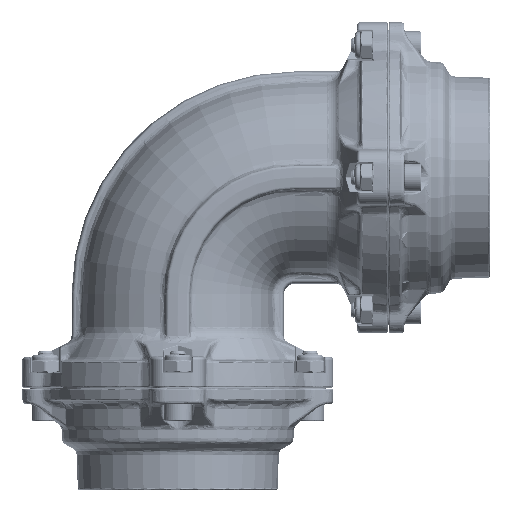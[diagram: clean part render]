
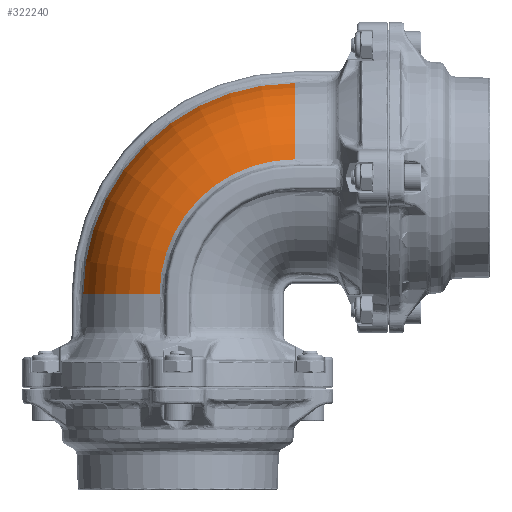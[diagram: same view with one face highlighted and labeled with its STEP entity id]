
A CAD part, top view. The second image highlights one B-rep face of the part: STEP entity #322240.
In plain terms, the highlighted toroidal (fillet/blend) face has major radius 54.545 mm and minor radius 44.9 mm.
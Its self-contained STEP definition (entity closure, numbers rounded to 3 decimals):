
#1003 = VERTEX_POINT ( 'NONE', #332062 ) ;
#6749 = CIRCLE ( 'NONE', #281190, 98.644 ) ;
#6837 = CARTESIAN_POINT ( 'NONE',  ( -106.99, -54.545, 44.099 ) ) ;
#28927 = DIRECTION ( 'NONE',  ( -1., 0., 0. ) ) ;
#34932 = CARTESIAN_POINT ( 'NONE',  ( -44., -54.545, 44.099 ) ) ;
#44444 = AXIS2_PLACEMENT_3D ( 'NONE', #87728, #270351, #114007 ) ;
#47704 = ORIENTED_EDGE ( 'NONE', *, *, #87240, .T. ) ;
#49599 = VERTEX_POINT ( 'NONE', #6837 ) ;
#49905 = VERTEX_POINT ( 'NONE', #235135 ) ;
#51947 = AXIS2_PLACEMENT_3D ( 'NONE', #102919, #285304, #129162 ) ;
#59497 = ORIENTED_EDGE ( 'NONE', *, *, #90155, .T. ) ;
#61276 = DIRECTION ( 'NONE',  ( 0., 1., 0. ) ) ;
#70699 = EDGE_LOOP ( 'NONE', ( #47704, #153709, #312432, #249921, #96205, #59497 ) ) ;
#73053 = CIRCLE ( 'NONE', #275081, 62.99 ) ;
#73791 = CARTESIAN_POINT ( 'NONE',  ( -142.644, -54.545, 8.444 ) ) ;
#75160 = CARTESIAN_POINT ( 'NONE',  ( -44., -54.545, 8.444 ) ) ;
#85678 = EDGE_CURVE ( 'NONE', #110403, #49599, #217577, .T. ) ;
#87240 = EDGE_CURVE ( 'NONE', #139929, #310534, #233625, .T. ) ;
#87728 = CARTESIAN_POINT ( 'NONE',  ( -98.545, -54.545, 0. ) ) ;
#89114 = CIRCLE ( 'NONE', #115719, 62.99 ) ;
#89242 = EDGE_CURVE ( 'NONE', #49599, #1003, #73053, .T. ) ;
#90155 = EDGE_CURVE ( 'NONE', #1003, #139929, #89114, .T. ) ;
#96205 = ORIENTED_EDGE ( 'NONE', *, *, #89242, .T. ) ;
#99728 = EDGE_CURVE ( 'NONE', #49905, #110403, #150723, .T. ) ;
#101483 = DIRECTION ( 'NONE',  ( 1., 0., 0. ) ) ;
#102919 = CARTESIAN_POINT ( 'NONE',  ( -44., -54.545, 8.444 ) ) ;
#108997 = CARTESIAN_POINT ( 'NONE',  ( -44., -54.545, 44.099 ) ) ;
#110403 = VERTEX_POINT ( 'NONE', #73791 ) ;
#114007 = DIRECTION ( 'NONE',  ( 0., 0., 1. ) ) ;
#115719 = AXIS2_PLACEMENT_3D ( 'NONE', #108997, #291408, #135323 ) ;
#129162 = DIRECTION ( 'NONE',  ( 1., 0., 0. ) ) ;
#135323 = DIRECTION ( 'NONE',  ( 0., 1., 0. ) ) ;
#139929 = VERTEX_POINT ( 'NONE', #247794 ) ;
#150723 = CIRCLE ( 'NONE', #51947, 98.644 ) ;
#153709 = ORIENTED_EDGE ( 'NONE', *, *, #337531, .T. ) ;
#158232 = DIRECTION ( 'NONE',  ( 0., 0., -1. ) ) ;
#158618 = AXIS2_PLACEMENT_3D ( 'NONE', #185528, #28927, #211739 ) ;
#176827 = TOROIDAL_SURFACE ( 'NONE', #199031, 54.545, 44.9 ) ;
#184513 = DIRECTION ( 'NONE',  ( -1., 0., 0. ) ) ;
#185528 = CARTESIAN_POINT ( 'NONE',  ( -44., 0., 0. ) ) ;
#197944 = CARTESIAN_POINT ( 'NONE',  ( -44., 44.099, 8.444 ) ) ;
#199031 = AXIS2_PLACEMENT_3D ( 'NONE', #209619, #158232, #184513 ) ;
#209619 = CARTESIAN_POINT ( 'NONE',  ( -44., -54.545, 0. ) ) ;
#211739 = DIRECTION ( 'NONE',  ( 0., 0., 1. ) ) ;
#217577 = CIRCLE ( 'NONE', #44444, 44.9 ) ;
#217732 = DIRECTION ( 'NONE',  ( 0., 0., -1. ) ) ;
#233625 = CIRCLE ( 'NONE', #158618, 44.9 ) ;
#235135 = CARTESIAN_POINT ( 'NONE',  ( -113.752, 15.207, 8.444 ) ) ;
#238068 = FACE_OUTER_BOUND ( 'NONE', #70699, .T. ) ;
#247794 = CARTESIAN_POINT ( 'NONE',  ( -44., 8.444, 44.099 ) ) ;
#249921 = ORIENTED_EDGE ( 'NONE', *, *, #85678, .T. ) ;
#257812 = DIRECTION ( 'NONE',  ( 0., 0., 1. ) ) ;
#270351 = DIRECTION ( 'NONE',  ( 0., 1., 0. ) ) ;
#275081 = AXIS2_PLACEMENT_3D ( 'NONE', #34932, #217732, #61276 ) ;
#281190 = AXIS2_PLACEMENT_3D ( 'NONE', #75160, #257812, #101483 ) ;
#285304 = DIRECTION ( 'NONE',  ( 0., 0., 1. ) ) ;
#291408 = DIRECTION ( 'NONE',  ( 0., 0., -1. ) ) ;
#310534 = VERTEX_POINT ( 'NONE', #197944 ) ;
#312432 = ORIENTED_EDGE ( 'NONE', *, *, #99728, .T. ) ;
#322240 = ADVANCED_FACE ( 'NONE', ( #238068 ), #176827, .T. ) ;
#332062 = CARTESIAN_POINT ( 'NONE',  ( -88.54, -10.005, 44.099 ) ) ;
#337531 = EDGE_CURVE ( 'NONE', #310534, #49905, #6749, .T. ) ;
